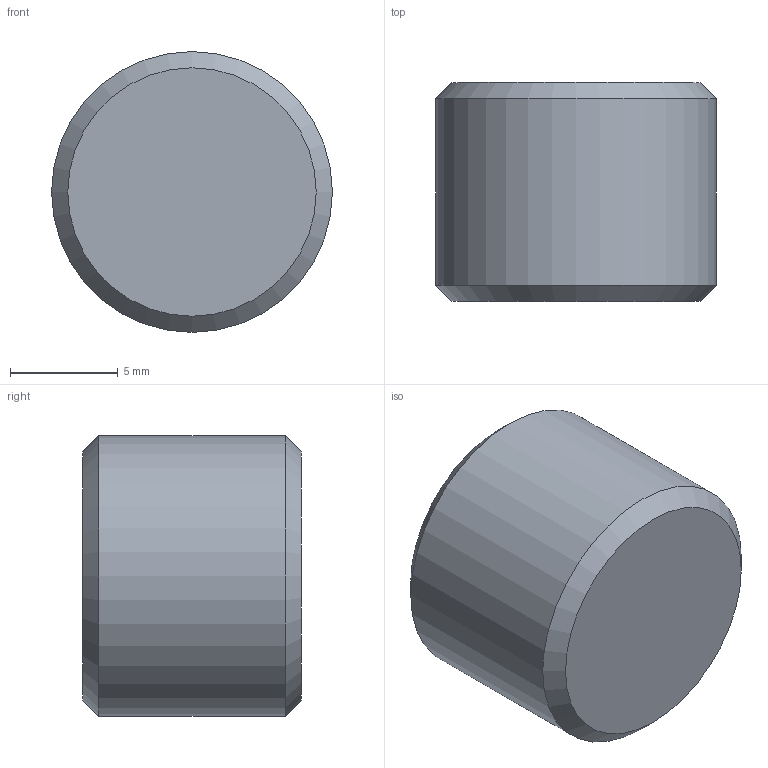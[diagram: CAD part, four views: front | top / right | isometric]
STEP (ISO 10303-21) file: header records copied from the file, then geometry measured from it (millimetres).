
FILE_DESCRIPTION(/* description */ (''),/* implementation_level */ '2;1');
FILE_NAME(/* name */ 'C:/Users/drich/Desktop/BF-14 v1.step',/* time_stamp */ '2020-01-08T20:42:54-06:00',/* author */ (''),/* organization */ (''),/* preprocessor_version */ 'ST-DEVELOPER v18',/* originating_system */ 'Autodesk Translation Framework v8.12.0.6',/* authorisation */ '');
FILE_SCHEMA (('AUTOMOTIVE_DESIGN { 1 0 10303 214 3 1 1 }'));
Length unit declared in the file: inch
Products named in the file (1): BF-14
Bounding box: 13.03 x 10.16 x 13.03 mm (x, y, z)
Volume: 1091.4 mm3; surface area: 790.9 mm2
Topology: 1 solids, 1 shells, 13 faces, 35 edges, 25 vertices
Faces by surface type: plane 9, cone 3, cylinder 1
Full cylindrical faces by diameter (mm): 13.032 x1
Entity records: 446 total; most frequent: CARTESIAN_POINT 98, ORIENTED_EDGE 70, DIRECTION 58, EDGE_CURVE 35, VERTEX_POINT 25, AXIS2_PLACEMENT_3D 21, LINE 16, VECTOR 16
